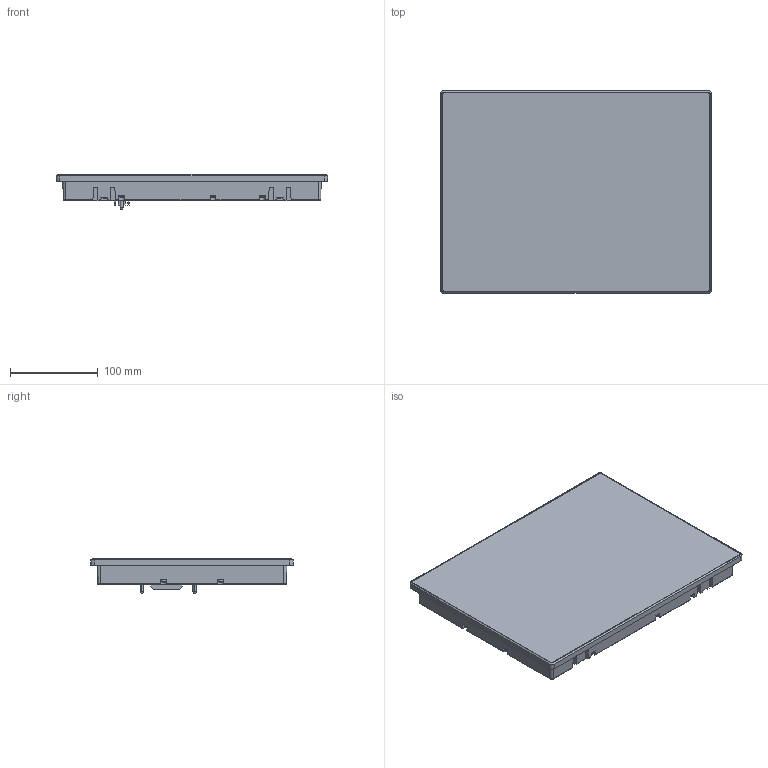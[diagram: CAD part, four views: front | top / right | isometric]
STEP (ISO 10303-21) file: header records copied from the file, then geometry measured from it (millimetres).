
FILE_DESCRIPTION((''),'2;1');
FILE_NAME('SIMPL_ASM','2021-04-15T08:52:40',('danae.lavaud'),(''),'CREO PARAMETRIC BY PTC INC, 2018260','CREO PARAMETRIC BY PTC INC, 2018260','');
FILE_SCHEMA(('CONFIG_CONTROL_DESIGN'));
Products named in the file (7): PRT0001_1; HUA1256901_1_1_1; HUA1145401_1_1_1; ASM0005_ASM_1_ASM; SIMPL_ASM_1_ASM; PFXDM6600WC_ASM; SIMPL_ASM
Assembly tree (22 placements, depth 5):
  SIMPL_ASM
    PFXDM6600WC_ASM
      SIMPL_ASM_1_ASM
        PRT0001_1
        ASM0005_ASM_1_ASM
          HUA1256901_1_1_1  x14
          HUA1145401_1_1_1  x4
Bounding box: 308.5 x 230.5 x 40 mm (x, y, z)
Volume: 1911169.8 mm3; surface area: 196665.3 mm2
Topology: 19 solids, 37 shells, 1063 faces, 2850 edges, 1810 vertices
Faces by surface type: cylinder 444, plane 279, cone 212, torus 76, sphere 36, extrusion 16
Entity records: 14931 total; most frequent: CARTESIAN_POINT 3530, ORIENTED_EDGE 2348, DIRECTION 2328, EDGE_CURVE 1178, AXIS2_PLACEMENT_3D 785, VERTEX_POINT 770, VECTOR 758, LINE 742
